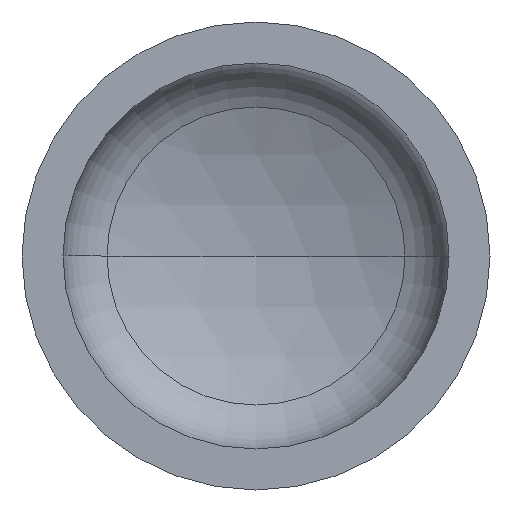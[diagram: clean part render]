
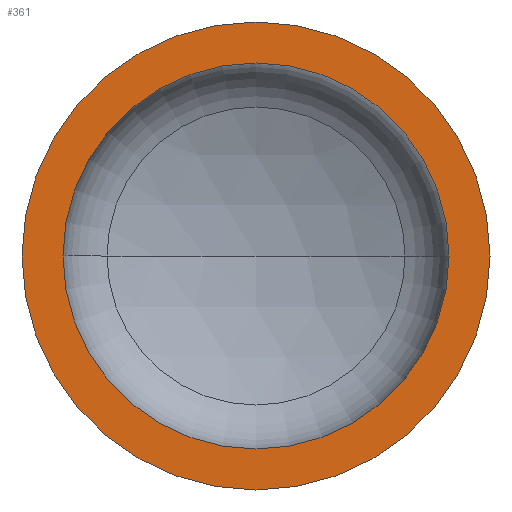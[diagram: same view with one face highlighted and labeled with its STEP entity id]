
A CAD part, front view. The second image highlights one B-rep face of the part: STEP entity #361.
In plain terms, the highlighted planar face has unit normal (0, -1, 0).
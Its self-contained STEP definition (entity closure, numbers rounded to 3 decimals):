
#6 = AXIS2_PLACEMENT_3D ( 'NONE', #190, #29, #135 ) ;
#10 = EDGE_LOOP ( 'NONE', ( #171, #168 ) ) ;
#29 = DIRECTION ( 'NONE',  ( 0., -1., 0. ) ) ;
#37 = DIRECTION ( 'NONE',  ( -1., 0., 0. ) ) ;
#43 = VERTEX_POINT ( 'NONE', #350 ) ;
#66 = AXIS2_PLACEMENT_3D ( 'NONE', #339, #398, #374 ) ;
#71 = EDGE_LOOP ( 'NONE', ( #78, #149 ) ) ;
#73 = AXIS2_PLACEMENT_3D ( 'NONE', #333, #332, #327 ) ;
#78 = ORIENTED_EDGE ( 'NONE', *, *, #97, .F. ) ;
#89 = DIRECTION ( 'NONE',  ( 0., 1., 0. ) ) ;
#95 = EDGE_CURVE ( 'NONE', #43, #303, #289, .T. ) ;
#97 = EDGE_CURVE ( 'NONE', #120, #174, #402, .T. ) ;
#120 = VERTEX_POINT ( 'NONE', #204 ) ;
#135 = DIRECTION ( 'NONE',  ( 1., 0., 0. ) ) ;
#140 = CIRCLE ( 'NONE', #238, 400. ) ;
#149 = ORIENTED_EDGE ( 'NONE', *, *, #347, .F. ) ;
#168 = ORIENTED_EDGE ( 'NONE', *, *, #95, .T. ) ;
#171 = ORIENTED_EDGE ( 'NONE', *, *, #395, .T. ) ;
#173 = FACE_OUTER_BOUND ( 'NONE', #10, .T. ) ;
#174 = VERTEX_POINT ( 'NONE', #206 ) ;
#181 = CIRCLE ( 'NONE', #6, 330. ) ;
#183 = AXIS2_PLACEMENT_3D ( 'NONE', #213, #89, #37 ) ;
#189 = PLANE ( 'NONE',  #183 ) ;
#190 = CARTESIAN_POINT ( 'NONE',  ( 0., 0., 0. ) ) ;
#204 = CARTESIAN_POINT ( 'NONE',  ( 330., 0., 0. ) ) ;
#206 = CARTESIAN_POINT ( 'NONE',  ( -330., 0., 0. ) ) ;
#213 = CARTESIAN_POINT ( 'NONE',  ( -400., 0., 0. ) ) ;
#216 = CARTESIAN_POINT ( 'NONE',  ( 0., 0., 0. ) ) ;
#238 = AXIS2_PLACEMENT_3D ( 'NONE', #216, #382, #246 ) ;
#246 = DIRECTION ( 'NONE',  ( 1., 0., 0. ) ) ;
#289 = CIRCLE ( 'NONE', #73, 400. ) ;
#303 = VERTEX_POINT ( 'NONE', #376 ) ;
#304 = FACE_BOUND ( 'NONE', #71, .T. ) ;
#327 = DIRECTION ( 'NONE',  ( 1., 0., 0. ) ) ;
#332 = DIRECTION ( 'NONE',  ( 0., -1., 0. ) ) ;
#333 = CARTESIAN_POINT ( 'NONE',  ( 0., 0., 0. ) ) ;
#339 = CARTESIAN_POINT ( 'NONE',  ( 0., 0., 0. ) ) ;
#347 = EDGE_CURVE ( 'NONE', #174, #120, #181, .T. ) ;
#350 = CARTESIAN_POINT ( 'NONE',  ( -400., 0., 0. ) ) ;
#361 = ADVANCED_FACE ( 'NONE', ( #304, #173 ), #189, .F. ) ;
#374 = DIRECTION ( 'NONE',  ( 1., 0., 0. ) ) ;
#376 = CARTESIAN_POINT ( 'NONE',  ( 400., 0., 0. ) ) ;
#382 = DIRECTION ( 'NONE',  ( 0., -1., 0. ) ) ;
#395 = EDGE_CURVE ( 'NONE', #303, #43, #140, .T. ) ;
#398 = DIRECTION ( 'NONE',  ( 0., -1., 0. ) ) ;
#402 = CIRCLE ( 'NONE', #66, 330. ) ;
